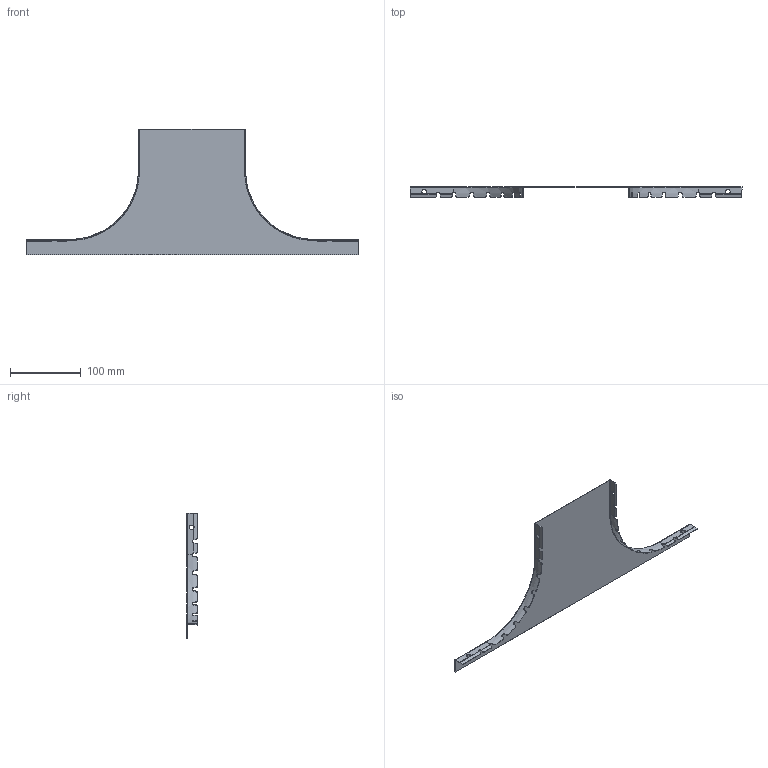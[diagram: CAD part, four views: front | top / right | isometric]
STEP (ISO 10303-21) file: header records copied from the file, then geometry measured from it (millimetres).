
FILE_DESCRIPTION (( 'STEP AP203' ), '1' );
FILE_NAME ('ERE_TAPA AS 150.step', '2023-07-27T18:55:31', ( '' ), ( '' ), 'SwSTEP 2.0', 'SolidWorks 2022', '' );
FILE_SCHEMA (( 'CONFIG_CONTROL_DESIGN' ));
Length unit declared in the file: millimetre
Products named in the file (1): ERE_TAPA AS 150
Bounding box: 470 x 15.01 x 177.8 mm (x, y, z)
Volume: 31211.5 mm3; surface area: 90291.8 mm2
Topology: 1 solids, 1 shells, 310 faces, 812 edges, 496 vertices
Faces by surface type: plane 138, bspline 94, cylinder 74, torus 4
Entity records: 17888 total; most frequent: CARTESIAN_POINT 11078, ORIENTED_EDGE 1624, DIRECTION 1067, EDGE_CURVE 812, VERTEX_POINT 496, AXIS2_PLACEMENT_3D 389, B_SPLINE_CURVE_WITH_KNOTS 351, ADVANCED_FACE 310
